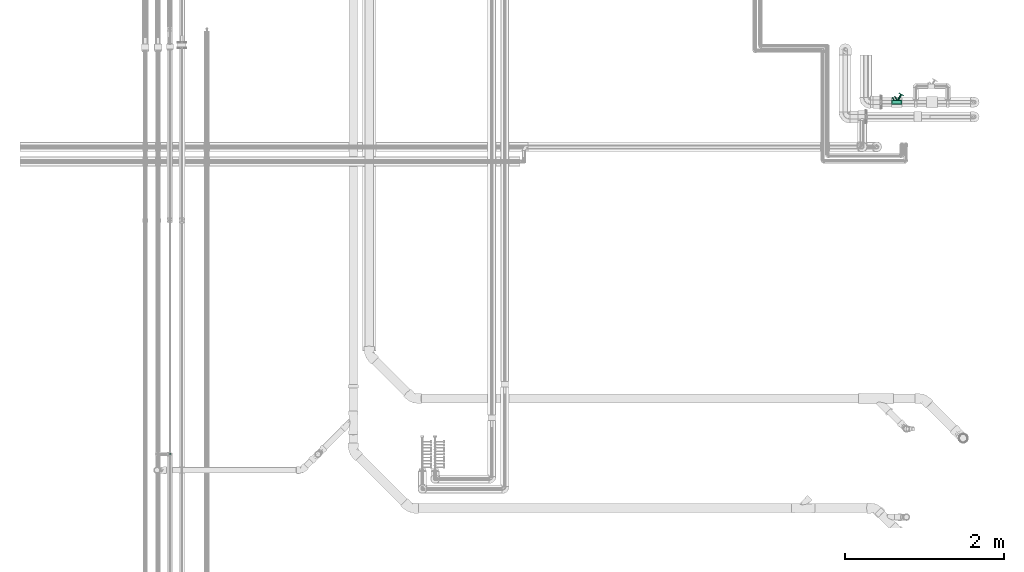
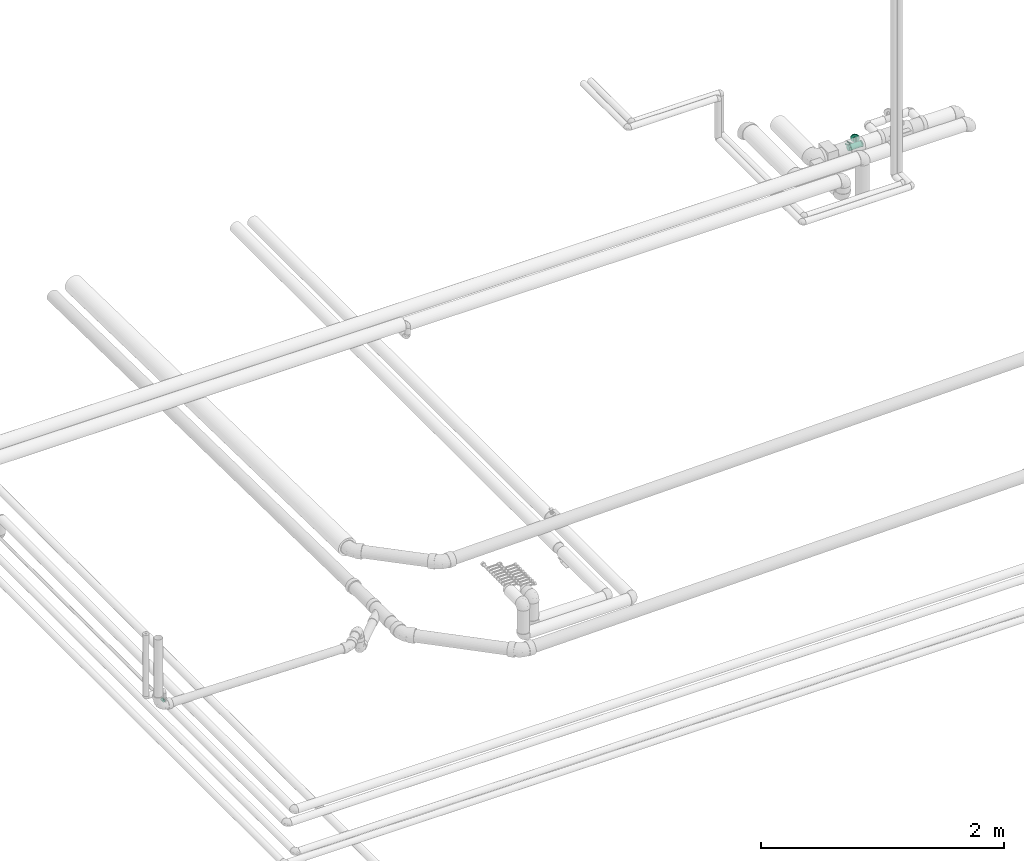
# One storey, part 77 of 83: 1 flow controller, 1 flow fitting.
"""IFC2X3 building model written with IfcOpenShell, lengths in millimetres."""

from ifc_helpers import new_model, entity, si_unit, converted_unit, derived_unit, direction, frame, origin_with_axes, place, context, subcontext, project, spatial, open_shell, surface_model, source, transform, mapped, type_object, element, save


model = new_model("IFC2X3")

# Units and contexts
model_context = context("Model", 3, precision=0.01, world=frame((0.0, 4.29681676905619e-09, 0.0)), true_north=direction((4.01073788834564e-13, 1.0)))
plan_context = context("Plan", 3, precision=0.01, world=frame((0.0, 4.29681676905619e-09, 0.0)), true_north=direction((4.01073788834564e-13, 1.0)))
body_context = subcontext(model_context, "Body", "Model", "MODEL_VIEW")
ifc_project = project(units=[converted_unit("PLANEANGLEUNIT", "DEGREE", entity("IfcPositiveLengthMeasure", 0.0174532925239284), si_unit("PLANEANGLEUNIT", "RADIAN"), dimensions=[0, 0, 0, 0, 0, 0, 0]), si_unit("AREAUNIT", "SQUARE_METRE"), si_unit("LENGTHUNIT", "METRE", prefix="MILLI"), si_unit("MASSUNIT", "GRAM", prefix="KILO"), si_unit("POWERUNIT", "WATT"), si_unit("PRESSUREUNIT", "PASCAL"), si_unit("FORCEUNIT", "NEWTON", prefix="KILO"), si_unit("ELECTRICVOLTAGEUNIT", "VOLT"), si_unit("ELECTRICCURRENTUNIT", "AMPERE"), si_unit("THERMODYNAMICTEMPERATUREUNIT", "DEGREE_CELSIUS"), si_unit("TIMEUNIT", "SECOND"), si_unit("VOLUMEUNIT", "CUBIC_METRE"), derived_unit("LINEARVELOCITYUNIT", [(si_unit("LENGTHUNIT", "METRE"), 1), (si_unit("TIMEUNIT", "SECOND"), -1)]), derived_unit("VOLUMETRICFLOWRATEUNIT", [(si_unit("VOLUMEUNIT", "CUBIC_METRE"), 1), (si_unit("TIMEUNIT", "SECOND"), -1)]), derived_unit("THERMALTRANSMITTANCEUNIT", [(si_unit("POWERUNIT", "WATT"), 1), (si_unit("THERMODYNAMICTEMPERATUREUNIT", "KELVIN"), -1), (si_unit("AREAUNIT", "SQUARE_METRE"), -1)]), derived_unit("SOUNDPRESSUREUNIT", [(si_unit("PRESSUREUNIT", "PASCAL"), 1)])], contexts=[model_context, plan_context])

# Site, building, storey
site_placement = place(None, frame((0.0, -4.29681676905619e-09, 0.0), z_axis=(0.0, 0.0, 1.0), x_axis=(1.0, 0.0, 0.0)))
site = spatial("IfcSite", under=ifc_project, at=site_placement, Name="ENGM", CompositionType="ELEMENT")
building_placement = place(site_placement, frame((0.0, 4.29681676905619e-09, 0.0), z_axis=(0.0, 0.0, 1.0), x_axis=(1.0, 0.0, 0.0)))
building = spatial("IfcBuilding", under=site, at=building_placement, Name="TI", CompositionType="ELEMENT")
storey_placement = place(building_placement, frame((0.0, 0.0, 204000.0), z_axis=(0.0, 0.0, 1.0), x_axis=(1.0, 0.0, 0.0)))
storey = spatial("IfcBuildingStorey", under=building, at=storey_placement, Name="Nivå D", CompositionType="ELEMENT", Elevation=204000.0)

# Flow controller
valve_type = type_object("IfcValveType", Name="STAD/F-40", PredefinedType="NOTDEFINED")
shared_shape_1 = source(origin_with_axes(), body_context, "Body", "SurfaceModel", [
    surface_model("IfcShellBasedSurfaceModel", [(5.41266, -10.82532, 3.125), (7.65466, -8.83883, 4.41942), (5.32606, -10.65211, 3.075), (2.75697, -11.88089, 1.59174), (0.0, -12.3, 0.0), (2.8018, -12.07407, 1.61762), (0.0, -12.5, 0.0), (7.53218, -8.69741, 4.34871), (10.45645, -3.23524, 6.03704), (10.65211, 0.0, 6.15), (10.28915, -3.18347, 5.94044), (10.82532, 0.0, 6.25), (9.375, -6.25, 5.41266), (9.225, -6.15, 5.32606), (-2.75697, -11.88089, -1.59174), (-2.8018, -12.07407, -1.61762), (-5.32606, -10.65211, -3.075), (-7.65466, -8.83883, -4.41942), (-5.41266, -10.82532, -3.125), (-7.53218, -8.69741, -4.34871), (-9.225, -6.15, -5.32606), (-9.375, -6.25, -5.41266), (-10.28915, -3.18347, -5.94044), (-10.45645, -3.23524, -6.03704), (-10.65211, 0.0, -6.15), (-10.82532, 0.0, -6.25), (10.45645, 3.23524, 6.03704), (10.28915, 3.18347, 5.94044), (9.225, 6.15, 5.32606), (9.375, 6.25, 5.41266), (7.53218, 8.69741, 4.34871), (7.65466, 8.83883, 4.41942), (5.41266, 10.82532, 3.125), (5.32606, 10.65211, 3.075), (2.75697, 11.88089, 1.59174), (2.8018, 12.07407, 1.61762), (0.0, 12.3, 0.0), (0.0, 12.5, 0.0), (-9.375, 6.25, -5.41266), (-9.225, 6.15, -5.32606), (-7.65466, 8.83883, -4.41942), (-7.53218, 8.69741, -4.34871), (-10.45645, 3.23524, -6.03704), (-10.28915, 3.18347, -5.94044), (-2.75697, 11.88089, -1.59174), (-2.8018, 12.07407, -1.61762), (-5.32606, 10.65211, -3.075), (-5.41266, 10.82532, -3.125), (65.0, 15.84, -27.43569), (65.0, 31.68, 0.0), (65.0, -15.84, 27.43569), (65.0, 15.84, 27.43569), (65.0, -15.84, -27.43569), (65.0, -31.68, 0.0), (55.0, -31.68, 0.0), (55.0, -15.84, 27.43569), (55.0, -15.84, -27.43569), (55.0, 31.68, 0.0), (55.0, 15.84, -27.43569), (55.0, 15.84, 27.43569), (-65.0, -15.84, -27.43569), (-65.0, -31.68, 0.0), (-65.0, 15.84, 27.43569), (-65.0, -15.84, 27.43569), (-65.0, 15.84, -27.43569), (-65.0, 31.68, 0.0), (-55.0, 31.68, 0.0), (-55.0, 15.84, 27.43569), (-55.0, 15.84, -27.43569), (-55.0, -31.68, 0.0), (-55.0, -15.84, -27.43569), (-55.0, -15.84, 27.43569), (87.125, 18.75, -85.95303), (67.40539, 36.22222, -97.33814), (75.23797, 32.47595, -92.816), (81.96397, 26.5165, -88.93275), (42.76202, 32.47595, -111.566), (90.36936, 9.70571, -84.0799), (26.52404, 0.0, -120.941), (36.03603, 26.5165, -115.44925), (59.0, 37.5, -102.191), (50.5946, 36.22222, -107.04386), (30.87499, 18.75, -118.42897), (27.63063, 9.70571, -120.3021), (91.47595, 0.0, -83.441), (90.36936, -9.70571, -84.0799), (87.125, -18.75, -85.95303), (81.96397, -26.5165, -88.93275), (75.23797, -32.47595, -92.816), (67.40539, -36.22222, -97.33814), (59.0, -37.5, -102.191), (27.63063, -9.70571, -120.3021), (36.03603, -26.5165, -115.44925), (30.87499, -18.75, -118.42897), (50.5946, -36.22222, -107.04386), (42.76202, -32.47595, -111.566), (61.40539, -36.22222, -86.94584), (44.5946, -36.22222, -96.65155), (52.99999, -37.5, -91.79869), (69.23797, -32.47595, -82.42369), (75.96396, -26.5165, -78.54045), (81.125, -18.75, -75.56072), (84.36936, -9.70571, -73.68759), (21.63063, 9.70571, -109.90981), (30.03603, -26.5165, -105.05695), (36.76202, -32.47595, -101.17369), (21.63063, -9.70571, -109.90981), (24.87499, -18.75, -108.03667), (20.52404, 0.0, -110.54869), (85.47595, 0.0, -73.0487), (84.36936, 9.70571, -73.68759), (81.125, 18.75, -75.56072), (69.23797, 32.47595, -82.42369), (61.40539, 36.22222, -86.94584), (75.96396, 26.5165, -78.54045), (30.03603, 26.5165, -105.05695), (24.87499, 18.75, -108.03667), (36.76202, 32.47595, -101.17369), (44.5946, 36.22222, -96.65155), (52.99999, 37.5, -91.79869), (55.0, 13.2, -22.86307), (55.0, 0.0, -26.4), (55.0, 6.83282, -25.50044), (55.0, 25.50044, 6.83282), (55.0, -25.50044, -6.83282), (55.0, 25.50044, -6.83282), (55.0, 26.4, 0.0), (55.0, 18.66762, -18.66762), (55.0, 22.86307, -13.2), (55.0, -13.2, -22.86307), (55.0, -6.83282, -25.50044), (55.0, -18.66762, -18.66762), (55.0, -22.86307, -13.2), (55.0, 22.86307, 13.2), (55.0, 18.66762, 18.66762), (55.0, 0.0, 26.4), (55.0, 13.2, 22.86307), (55.0, 6.83282, 25.50044), (55.0, -18.66762, 18.66762), (55.0, -25.50044, 6.83282), (55.0, -22.86307, 13.2), (55.0, -26.4, 0.0), (55.0, -6.83282, 25.50044), (55.0, -13.2, 22.86307), (-55.0, 0.0, 26.4), (-55.0, 6.83282, 25.50044), (-55.0, 13.2, 22.86307), (-55.0, 18.66762, 18.66762), (-55.0, 22.86307, 13.2), (-55.0, 25.50044, 6.83282), (-55.0, -18.66762, 18.66762), (-55.0, -6.83282, 25.50044), (-55.0, -13.2, 22.86307), (-55.0, -25.50044, 6.83282), (-55.0, -22.86307, 13.2), (-55.0, -26.4, 0.0), (-55.0, 26.4, 0.0), (-55.0, 18.66762, -18.66762), (-55.0, 25.50044, -6.83282), (-55.0, 22.86307, -13.2), (-55.0, -13.2, -22.86307), (-55.0, 13.2, -22.86307), (-55.0, -25.50044, -6.83282), (-55.0, 0.0, -26.4), (-55.0, 6.83282, -25.50044), (-55.0, -18.66762, -18.66762), (-55.0, -22.86307, -13.2), (-55.0, -6.83282, -25.50044), (-26.86828, 7.24444, -78.90582), (-25.30177, 6.49519, -79.81024), (-23.95657, 5.3033, -80.5869), (-33.14216, 5.3033, -75.2836), (-22.27549, 1.94114, -81.55747), (-22.92436, 3.75, -81.18284), (-35.04455, 0.0, -74.18525), (-28.54936, 7.5, -77.93525), (-31.79696, 6.49519, -76.06025), (-30.23044, 7.24444, -76.96468), (-34.17436, 3.75, -74.68765), (-34.82324, 1.94114, -74.31302), (-22.05417, 0.0, -81.68525), (-22.92436, -3.75, -81.18284), (-23.95657, -5.3033, -80.5869), (-26.86828, -7.24444, -78.90582), (-28.54936, -7.5, -77.93525), (-25.30177, -6.49519, -79.81024), (-33.14216, -5.3033, -75.2836), (-34.17436, -3.75, -74.68765), (-34.82324, -1.94114, -74.31302), (-30.23044, -7.24444, -76.96468), (-31.79696, -6.49519, -76.06025), (-22.27549, -1.94114, -81.55747), (21.04343, -5.3033, -2.64461), (16.45063, -7.5, 0.00704), (18.13171, -7.24444, -0.96353), (19.69823, -6.49519, -1.86796), (10.82563, -3.75, 3.25464), (22.07564, -3.75, -3.24055), (11.85784, -5.3033, 2.65869), (22.72451, -1.94114, -3.61518), (14.76956, -7.24444, 0.97761), (13.20304, -6.49519, 1.88204), (10.17676, -1.94114, 3.62926), (10.17676, 1.94114, 3.62926), (9.95544, 0.0, 3.75704), (22.94582, 0.0, -3.74296), (22.72451, 1.94114, -3.61518), (22.07564, 3.75, -3.24055), (19.69823, 6.49519, -1.86796), (18.13171, 7.24444, -0.96353), (21.04343, 5.3033, -2.64461), (13.20304, 6.49519, 1.88204), (11.85784, 5.3033, 2.65869), (10.82563, 3.75, 3.25464), (16.45063, 7.5, 0.00704), (14.76956, 7.24444, 0.97761), (-55.01411, 7.24444, -62.65582), (-53.44759, 6.49519, -63.56025), (-52.10239, 5.3033, -64.3369), (-51.07019, 3.75, -64.93284), (-50.42131, 1.94114, -65.30747), (-50.2, 0.0, -65.43525), (-51.07019, -3.75, -64.93284), (-59.94278, 6.49519, -59.81025), (-58.37627, 7.24444, -60.71468), (-56.69519, 7.5, -61.68525), (-61.28798, 5.3033, -59.0336), (-62.96906, 1.94114, -58.06303), (-62.32019, 3.75, -58.43765), (-52.10239, -5.3033, -64.3369), (-61.28798, -5.3033, -59.0336), (-55.01411, -7.24444, -62.65582), (-53.44759, -6.49519, -63.56025), (-56.69519, -7.5, -61.68525), (-59.94278, -6.49519, -59.81025), (-62.32019, -3.75, -58.43765), (-62.96906, -1.94114, -58.06303), (-63.19038, 0.0, -57.93524), (-58.37627, -7.24444, -60.71468), (-50.42131, -1.94114, -65.30747), (-30.51411, -7.24444, -20.22057), (-36.78798, -5.3033, -16.59835), (-32.19519, -7.5, -19.25), (-27.6024, -5.3033, -21.90165), (-28.94759, -6.49519, -21.125), (-26.57019, -3.75, -22.4976), (-35.44279, 6.49519, -17.375), (-35.44279, -6.49519, -17.375), (-33.87627, -7.24444, -18.27943), (-37.82019, -3.75, -16.0024), (-38.69038, 0.0, -15.5), (-38.46906, -1.94114, -15.62778), (-37.82019, 3.75, -16.0024), (-25.92132, -1.94114, -22.87222), (-25.7, 0.0, -23.0), (-25.92132, 1.94114, -22.87222), (-26.57019, 3.75, -22.4976), (-27.6024, 5.3033, -21.90165), (-30.51411, 7.24444, -20.22057), (-28.94759, 6.49519, -21.125), (-36.78798, 5.3033, -16.59835), (-38.46906, 1.94114, -15.62778), (-32.19519, 7.5, -19.25), (-33.87627, 7.24444, -18.27943), (58.41265, 10.82532, -88.67369), (60.65465, 8.83883, -87.37928), (58.32605, 10.65211, -88.7237), (55.75697, 11.88089, -90.20696), (52.99999, 12.3, -91.79869), (55.80179, 12.07407, -90.18108), (52.99999, 12.5, -91.79869), (60.53217, 8.69741, -87.44999), (63.45645, 3.23524, -85.76166), (63.65211, 0.0, -85.6487), (63.28915, 3.18347, -85.85825), (63.82531, 0.0, -85.54869), (62.37499, 6.25, -86.38603), (62.22499, 6.15, -86.47264), (50.24303, 11.88089, -93.39043), (50.1982, 12.07407, -93.41632), (47.67394, 10.65211, -94.8737), (45.34534, 8.83883, -96.21811), (47.58733, 10.82532, -94.92369), (45.46781, 8.69741, -96.1474), (43.77499, 6.15, -97.12475), (43.62499, 6.25, -97.21135), (42.71084, 3.18347, -97.73914), (42.54354, 3.23524, -97.83573), (42.34788, 0.0, -97.94869), (42.17468, 0.0, -98.04869), (63.45645, -3.23524, -85.76166), (63.28915, -3.18347, -85.85825), (62.22499, -6.15, -86.47264), (62.37499, -6.25, -86.38603), (60.53217, -8.69741, -87.44999), (60.65465, -8.83883, -87.37928), (58.41265, -10.82532, -88.67369), (58.32605, -10.65211, -88.7237), (55.75697, -11.88089, -90.20696), (55.80179, -12.07407, -90.18108), (52.99999, -12.3, -91.79869), (52.99999, -12.5, -91.79869), (43.62499, -6.25, -97.21135), (43.77499, -6.15, -97.12475), (45.34534, -8.83883, -96.21811), (45.46781, -8.69741, -96.1474), (42.54354, -3.23524, -97.83573), (42.71084, -3.18347, -97.73914), (50.24303, -11.88089, -93.39043), (50.1982, -12.07407, -93.41632), (47.67394, -10.65211, -94.8737), (47.58733, -10.82532, -94.92369)], [open_shell([[[0, 1, 2]], [[0, 2, 3]], [[4, 5, 3]], [[5, 4, 6]], [[3, 5, 0]], [[2, 1, 7]], [[8, 9, 10]], [[9, 8, 11]], [[8, 10, 12]], [[7, 12, 13]], [[12, 7, 1]], [[13, 12, 10]], [[6, 14, 15]], [[15, 14, 16]], [[17, 18, 19]], [[16, 18, 15]], [[16, 19, 18]], [[6, 4, 14]], [[20, 21, 17]], [[21, 20, 22]], [[20, 17, 19]], [[23, 22, 24]], [[22, 23, 21]], [[23, 24, 25]], [[11, 26, 27]], [[27, 26, 28]], [[28, 29, 30]], [[29, 28, 26]], [[30, 29, 31]], [[31, 32, 33]], [[33, 32, 34]], [[34, 35, 36]], [[35, 34, 32]], [[36, 35, 37]], [[33, 30, 31]], [[38, 39, 40]], [[40, 39, 41]], [[39, 38, 42]], [[25, 43, 42]], [[42, 43, 39]], [[25, 24, 43]], [[44, 37, 45]], [[44, 45, 46]], [[41, 47, 40]], [[41, 46, 47]], [[47, 46, 45]], [[36, 37, 44]], [[27, 9, 11]], [[48, 49, 50]], [[50, 49, 51]], [[52, 50, 53]], [[50, 52, 48]], [[54, 55, 56]], [[56, 55, 57]], [[57, 58, 56]], [[57, 55, 59]], [[50, 51, 59]], [[59, 55, 50]], [[53, 50, 55]], [[55, 54, 53]], [[52, 53, 54]], [[54, 56, 52]], [[48, 52, 56]], [[56, 58, 48]], [[49, 48, 58]], [[58, 57, 49]], [[51, 49, 59]], [[57, 59, 49]], [[60, 61, 62]], [[62, 61, 63]], [[64, 62, 65]], [[62, 64, 60]], [[66, 67, 68]], [[68, 67, 69]], [[69, 70, 68]], [[69, 67, 71]], [[62, 63, 71]], [[71, 67, 62]], [[65, 62, 67]], [[67, 66, 65]], [[64, 65, 66]], [[66, 68, 64]], [[60, 64, 68]], [[68, 70, 60]], [[61, 60, 70]], [[70, 69, 61]], [[63, 61, 71]], [[69, 71, 61]], [[72, 73, 74]], [[72, 74, 75]], [[76, 72, 77]], [[72, 76, 73]], [[78, 79, 77]], [[80, 76, 81]], [[80, 73, 76]], [[77, 79, 76]], [[79, 78, 82]], [[78, 83, 82]], [[84, 78, 77]], [[85, 86, 87]], [[87, 88, 84]], [[78, 88, 89]], [[88, 78, 84]], [[89, 90, 78]], [[91, 92, 93]], [[92, 91, 78]], [[92, 94, 95]], [[92, 78, 90]], [[90, 94, 92]], [[87, 84, 85]], [[96, 97, 98]], [[99, 97, 96]], [[100, 101, 102]], [[99, 100, 97]], [[103, 104, 100]], [[97, 104, 105]], [[97, 100, 104]], [[104, 106, 107]], [[108, 106, 103]], [[106, 104, 103]], [[100, 102, 109]], [[103, 100, 110]], [[111, 103, 110]], [[112, 113, 111]], [[112, 111, 114]], [[113, 103, 111]], [[103, 115, 116]], [[115, 103, 117]], [[113, 118, 117]], [[117, 103, 113]], [[119, 118, 113]], [[110, 100, 109]], [[103, 83, 108]], [[116, 82, 103]], [[76, 115, 117]], [[116, 115, 79]], [[81, 117, 118]], [[103, 82, 83]], [[83, 78, 108]], [[81, 76, 117]], [[79, 115, 76]], [[79, 82, 116]], [[80, 81, 118]], [[118, 119, 80]], [[113, 73, 119]], [[112, 74, 113]], [[72, 114, 111]], [[112, 114, 75]], [[77, 111, 110]], [[112, 75, 74]], [[74, 73, 113]], [[84, 77, 110]], [[72, 111, 77]], [[72, 75, 114]], [[109, 84, 110]], [[119, 73, 80]], [[102, 85, 109]], [[101, 86, 102]], [[88, 100, 99]], [[101, 100, 87]], [[89, 99, 96]], [[102, 86, 85]], [[85, 84, 109]], [[89, 88, 99]], [[87, 100, 88]], [[87, 86, 101]], [[90, 89, 96]], [[96, 98, 90]], [[97, 94, 98]], [[105, 95, 97]], [[93, 104, 107]], [[105, 104, 92]], [[91, 107, 106]], [[105, 92, 95]], [[95, 94, 97]], [[78, 91, 106]], [[93, 107, 91]], [[93, 92, 104]], [[108, 78, 106]], [[98, 94, 90]], [[120, 121, 122]], [[120, 123, 124]], [[125, 126, 127]], [[125, 127, 128]], [[120, 127, 123]], [[121, 129, 130]], [[121, 120, 129]], [[131, 124, 132]], [[124, 131, 129]], [[120, 124, 129]], [[127, 126, 123]], [[123, 133, 134]], [[123, 134, 135]], [[136, 137, 135]], [[136, 135, 134]], [[123, 135, 138]], [[139, 138, 140]], [[138, 139, 141]], [[138, 142, 143]], [[141, 124, 138]], [[135, 142, 138]], [[138, 124, 123]], [[144, 145, 146]], [[144, 146, 147]], [[147, 148, 149]], [[147, 149, 144]], [[144, 149, 150]], [[151, 150, 152]], [[151, 144, 150]], [[150, 153, 154]], [[153, 150, 155]], [[149, 155, 150]], [[149, 156, 155]], [[157, 156, 158]], [[157, 158, 159]], [[160, 157, 161]], [[162, 155, 157]], [[163, 161, 164]], [[162, 165, 166]], [[165, 162, 160]], [[160, 163, 167]], [[160, 162, 157]], [[161, 163, 160]], [[157, 155, 156]], [[124, 162, 166]], [[165, 132, 166]], [[129, 160, 167]], [[165, 160, 131]], [[130, 167, 163]], [[162, 141, 155]], [[162, 124, 141]], [[166, 132, 124]], [[165, 131, 132]], [[129, 131, 160]], [[167, 130, 129]], [[163, 121, 130]], [[122, 164, 161]], [[157, 120, 161]], [[128, 159, 158]], [[157, 159, 127]], [[125, 158, 156]], [[164, 122, 121]], [[161, 120, 122]], [[157, 127, 120]], [[159, 128, 127]], [[125, 128, 158]], [[156, 126, 125]], [[164, 121, 163]], [[156, 149, 123]], [[136, 146, 145]], [[146, 134, 147]], [[144, 137, 145]], [[156, 123, 126]], [[123, 149, 148]], [[123, 148, 133]], [[148, 147, 133]], [[133, 147, 134]], [[134, 146, 136]], [[145, 137, 136]], [[144, 135, 137]], [[142, 151, 152]], [[150, 143, 152]], [[140, 154, 153]], [[150, 154, 138]], [[139, 153, 155]], [[151, 142, 135]], [[152, 143, 142]], [[150, 138, 143]], [[154, 140, 138]], [[139, 140, 153]], [[155, 141, 139]], [[151, 135, 144]], [[168, 169, 170]], [[171, 168, 170]], [[171, 170, 172]], [[172, 170, 173]], [[174, 171, 172]], [[175, 176, 177]], [[176, 175, 171]], [[171, 174, 178]], [[171, 175, 168]], [[174, 179, 178]], [[180, 174, 172]], [[174, 180, 181]], [[182, 174, 181]], [[183, 184, 182]], [[183, 182, 185]], [[184, 186, 182]], [[174, 187, 188]], [[187, 174, 186]], [[186, 189, 190]], [[186, 174, 182]], [[184, 189, 186]], [[181, 180, 191]], [[192, 193, 194]], [[192, 194, 195]], [[196, 192, 197]], [[192, 198, 193]], [[196, 197, 199]], [[200, 198, 201]], [[200, 193, 198]], [[192, 196, 198]], [[202, 196, 199]], [[202, 203, 204]], [[202, 199, 205]], [[205, 206, 207]], [[205, 207, 208]], [[209, 202, 208]], [[208, 207, 210]], [[211, 202, 209]], [[203, 212, 213]], [[212, 203, 211]], [[211, 214, 215]], [[203, 202, 211]], [[209, 214, 211]], [[202, 205, 208]], [[203, 179, 204]], [[213, 178, 203]], [[176, 212, 211]], [[213, 212, 171]], [[177, 211, 215]], [[203, 178, 179]], [[179, 174, 204]], [[176, 211, 177]], [[171, 212, 176]], [[171, 178, 213]], [[215, 175, 177]], [[215, 214, 175]], [[209, 168, 214]], [[208, 169, 209]], [[173, 210, 207]], [[208, 210, 170]], [[172, 207, 206]], [[208, 170, 169]], [[169, 168, 209]], [[180, 172, 206]], [[173, 207, 172]], [[173, 170, 210]], [[205, 180, 206]], [[214, 168, 175]], [[199, 191, 205]], [[197, 181, 199]], [[185, 192, 195]], [[197, 192, 182]], [[183, 195, 194]], [[205, 191, 180]], [[199, 181, 191]], [[184, 183, 194]], [[185, 182, 192]], [[183, 185, 195]], [[197, 182, 181]], [[194, 193, 184]], [[200, 189, 193]], [[201, 190, 200]], [[202, 204, 174]], [[198, 190, 201]], [[189, 200, 190]], [[190, 198, 186]], [[187, 196, 188]], [[196, 187, 186]], [[188, 196, 202]], [[202, 174, 188]], [[196, 186, 198]], [[193, 189, 184]], [[216, 217, 218]], [[216, 218, 219]], [[219, 220, 221]], [[222, 223, 216]], [[219, 222, 216]], [[216, 224, 225]], [[216, 223, 224]], [[226, 227, 228]], [[227, 226, 223]], [[223, 229, 227]], [[219, 221, 222]], [[223, 222, 229]], [[230, 227, 229]], [[229, 231, 230]], [[231, 229, 232]], [[231, 233, 234]], [[227, 235, 236]], [[236, 237, 227]], [[231, 234, 230]], [[230, 235, 227]], [[238, 234, 233]], [[221, 239, 222]], [[240, 241, 242]], [[243, 240, 244]], [[241, 240, 245]], [[245, 240, 243]], [[241, 245, 246]], [[242, 247, 248]], [[242, 241, 247]], [[249, 250, 251]], [[246, 249, 241]], [[252, 250, 249]], [[245, 253, 254]], [[254, 255, 256]], [[254, 256, 257]], [[258, 245, 259]], [[259, 254, 257]], [[258, 246, 245]], [[252, 246, 260]], [[261, 250, 252]], [[246, 262, 263]], [[249, 246, 252]], [[258, 262, 246]], [[259, 245, 254]], [[261, 227, 250]], [[252, 228, 261]], [[223, 260, 246]], [[252, 260, 226]], [[224, 246, 263]], [[261, 228, 227]], [[227, 237, 250]], [[224, 223, 246]], [[226, 260, 223]], [[226, 228, 252]], [[225, 224, 263]], [[263, 262, 225]], [[258, 216, 262]], [[259, 217, 258]], [[219, 257, 256]], [[259, 257, 218]], [[220, 256, 255]], [[259, 218, 217]], [[217, 216, 258]], [[221, 220, 255]], [[219, 256, 220]], [[219, 218, 257]], [[254, 221, 255]], [[262, 216, 225]], [[253, 239, 254]], [[245, 222, 253]], [[232, 243, 244]], [[245, 243, 229]], [[231, 244, 240]], [[253, 222, 239]], [[239, 221, 254]], [[231, 232, 244]], [[229, 243, 232]], [[229, 222, 245]], [[233, 231, 240]], [[240, 242, 233]], [[248, 238, 242]], [[247, 234, 248]], [[235, 241, 249]], [[247, 241, 230]], [[236, 249, 251]], [[247, 230, 234]], [[234, 238, 248]], [[237, 236, 251]], [[235, 249, 236]], [[235, 230, 241]], [[250, 237, 251]], [[242, 238, 233]], [[264, 265, 266]], [[264, 266, 267]], [[268, 269, 267]], [[269, 268, 270]], [[267, 269, 264]], [[266, 265, 271]], [[272, 273, 274]], [[273, 272, 275]], [[272, 274, 276]], [[271, 276, 277]], [[276, 271, 265]], [[277, 276, 274]], [[270, 278, 279]], [[279, 278, 280]], [[281, 282, 283]], [[280, 282, 279]], [[280, 283, 282]], [[270, 268, 278]], [[284, 285, 281]], [[285, 284, 286]], [[284, 281, 283]], [[287, 286, 288]], [[286, 287, 285]], [[287, 288, 289]], [[275, 290, 291]], [[291, 290, 292]], [[292, 293, 294]], [[293, 292, 290]], [[294, 293, 295]], [[295, 296, 297]], [[297, 296, 298]], [[298, 299, 300]], [[299, 298, 296]], [[300, 299, 301]], [[297, 294, 295]], [[302, 303, 304]], [[304, 303, 305]], [[303, 302, 306]], [[289, 307, 306]], [[306, 307, 303]], [[289, 288, 307]], [[308, 301, 309]], [[308, 309, 310]], [[305, 311, 304]], [[305, 310, 311]], [[311, 310, 309]], [[300, 301, 308]], [[291, 273, 275]], [[42, 287, 25]], [[38, 285, 42]], [[282, 40, 47]], [[38, 40, 281]], [[279, 47, 45]], [[42, 285, 287]], [[287, 289, 25]], [[279, 282, 47]], [[281, 40, 282]], [[281, 285, 38]], [[270, 279, 45]], [[45, 37, 270]], [[35, 269, 37]], [[32, 264, 35]], [[276, 31, 29]], [[32, 31, 265]], [[272, 29, 26]], [[32, 265, 264]], [[264, 269, 35]], [[275, 272, 26]], [[276, 29, 272]], [[276, 265, 31]], [[11, 275, 26]], [[37, 269, 270]], [[8, 290, 11]], [[12, 293, 8]], [[296, 1, 0]], [[12, 1, 295]], [[299, 0, 5]], [[11, 290, 275]], [[8, 293, 290]], [[301, 299, 5]], [[293, 12, 295]], [[299, 296, 0]], [[1, 296, 295]], [[5, 6, 301]], [[15, 309, 6]], [[18, 311, 15]], [[23, 25, 289]], [[17, 311, 18]], [[309, 15, 311]], [[311, 17, 304]], [[21, 302, 304]], [[302, 21, 306]], [[306, 21, 23]], [[23, 289, 306]], [[21, 304, 17]], [[6, 309, 301]], [[43, 24, 286]], [[39, 43, 284]], [[44, 46, 280]], [[36, 44, 278]], [[286, 24, 288]], [[284, 43, 286]], [[284, 283, 41]], [[280, 41, 283]], [[46, 41, 280]], [[280, 278, 44]], [[39, 284, 41]], [[278, 268, 36]], [[33, 34, 267]], [[33, 266, 30]], [[27, 28, 277]], [[271, 28, 30]], [[9, 27, 274]], [[267, 266, 33]], [[34, 268, 267]], [[271, 30, 266]], [[271, 277, 28]], [[274, 27, 277]], [[9, 274, 273]], [[36, 268, 34]], [[9, 291, 10]], [[10, 292, 13]], [[294, 7, 13]], [[297, 2, 7]], [[291, 292, 10]], [[9, 273, 291]], [[297, 298, 3]], [[3, 298, 300]], [[297, 7, 294]], [[13, 292, 294]], [[297, 3, 2]], [[300, 4, 3]], [[16, 14, 308]], [[16, 310, 19]], [[22, 20, 303]], [[305, 20, 19]], [[24, 22, 307]], [[14, 300, 308]], [[310, 16, 308]], [[303, 20, 305]], [[22, 303, 307]], [[305, 19, 310]], [[307, 288, 24]], [[4, 300, 14]]])]),
])
flow_controller_placement = place(storey_placement, frame((609005.27966, 698092.0, 5915.24411), z_axis=(0.0, -1.0, 0.0), x_axis=(1.0, 0.0, 0.0)))
element("IfcFlowController", 1, at=flow_controller_placement, inside=storey, type_object=valve_type, Name="STAD/F-40", context=body_context, shape_type="MappedRepresentation", body=[
    mapped(shared_shape_1, transform((0.0, 0.0, 0.0), scale=1.0)),
])

# Flow fitting
pipe_fitting_type = type_object("IfcPipeFittingType", Name="magi_pipe_cu_tee_centric_90_001", PredefinedType="JUNCTION")
shared_shape_2 = source(origin_with_axes(), body_context, "Body", "SurfaceModel", [
    surface_model("IfcShellBasedSurfaceModel", [(-15.0, 3.62347, -13.52296), (-15.0, 0.0, -14.0), (-15.0, 9.89949, -9.89949), (-15.0, 7.0, -12.12436), (-15.0, 13.52296, -3.62347), (-15.0, 12.12436, -7.0), (-15.0, -12.12436, -7.0), (-15.0, -9.89949, -9.89949), (-15.0, -7.0, -12.12436), (-15.0, -3.62347, -13.52296), (-15.0, -13.52296, -3.62347), (-15.0, -14.0, 0.0), (-15.0, 14.0, 0.0), (-15.0, 12.12436, 7.0), (-15.0, 13.52296, 3.62347), (-15.0, 3.62347, 13.52296), (-15.0, 7.0, 12.12436), (-15.0, 9.89949, 9.89949), (-15.0, 0.0, 14.0), (-15.0, -13.52296, 3.62347), (-15.0, -12.12436, 7.0), (-15.0, -9.89949, 9.89949), (-15.0, -7.0, 12.12436), (-15.0, -3.62347, 13.52296), (15.0, 9.89949, -9.89949), (15.0, 0.0, -14.0), (15.0, 3.62347, -13.52296), (15.0, 7.0, -12.12436), (15.0, 12.12436, -7.0), (15.0, 13.52296, -3.62347), (15.0, -12.12436, -7.0), (15.0, -7.0, -12.12436), (15.0, -9.89949, -9.89949), (15.0, -3.62347, -13.52296), (15.0, -14.0, 0.0), (15.0, -13.52296, -3.62347), (15.0, -7.0, 12.12436), (15.0, 14.0, 0.0), (15.0, 13.52296, 3.62347), (15.0, 12.12436, 7.0), (15.0, 3.62347, 13.52296), (15.0, 7.0, 12.12436), (15.0, 9.89949, 9.89949), (15.0, 0.0, 14.0), (15.0, -12.12436, 7.0), (15.0, -13.52296, 3.62347), (15.0, -9.89949, 9.89949), (15.0, -3.62347, 13.52296), (15.0, -13.76148, 1.81173), (7.03381, -13.75589, 2.60297), (7.5, -14.0, 0.0), (5.73139, -13.13769, 4.83748), (1.3253, -11.89565, 7.38198), (15.0, -12.82366, 5.31173), (3.77416, -12.40944, 6.48118), (-3.77483, -12.40965, 6.48079), (-15.0, -12.82366, 5.31173), (-5.73324, -13.1385, 4.83528), (-7.03405, -13.75601, 2.60233), (-15.0, -13.76148, 1.81173), (-7.5, -14.0, 0.0), (-1.32746, -11.89589, 7.38159), (-5.73324, -13.1385, -4.83528), (-15.0, -12.82366, -5.31173), (-15.0, -13.76148, -1.81173), (-7.03405, -13.75601, -2.60233), (3.77416, -12.40944, -6.48118), (15.0, -12.82366, -5.31173), (5.73139, -13.13769, -4.83748), (1.3253, -11.89565, -7.38198), (7.03381, -13.75589, -2.60297), (15.0, -13.76148, -1.81173), (-1.32746, -11.89589, -7.38159), (-3.77483, -12.40965, -6.48079), (5.3033, -21.0, -5.3033), (0.0, -21.0, -7.5), (1.94114, -21.0, -7.24444), (3.75, -21.0, -6.49519), (6.49519, -21.0, -3.75), (7.24444, -21.0, -1.94114), (-5.3033, -21.0, -5.3033), (-7.5, -21.0, 0.0), (-1.94114, -21.0, -7.24444), (-3.75, -21.0, -6.49519), (-6.49519, -21.0, -3.75), (-7.24444, -21.0, -1.94114), (3.75, -21.0, 6.49519), (7.5, -21.0, 0.0), (7.24444, -21.0, 1.94114), (6.49519, -21.0, 3.75), (0.0, -21.0, 7.5), (5.3033, -21.0, 5.3033), (1.94114, -21.0, 7.24444), (-7.24444, -21.0, 1.94114), (-5.3033, -21.0, 5.3033), (-6.49519, -21.0, 3.75), (-3.75, -21.0, 6.49519), (-1.94114, -21.0, 7.24444)], [open_shell([[[0, 1, 2]], [[3, 0, 2]], [[1, 4, 5]], [[2, 1, 5]], [[6, 4, 1]], [[7, 6, 8]], [[9, 8, 6]], [[10, 11, 6]], [[1, 9, 6]], [[6, 11, 4]], [[11, 12, 4]], [[13, 14, 12]], [[15, 13, 12]], [[13, 15, 16]], [[17, 13, 16]], [[18, 15, 12]], [[19, 20, 11]], [[20, 21, 11]], [[22, 23, 12]], [[21, 22, 11]], [[12, 23, 18]], [[12, 11, 22]], [[24, 25, 26]], [[24, 26, 27]], [[28, 29, 25]], [[28, 25, 24]], [[25, 29, 30]], [[31, 30, 32]], [[30, 31, 33]], [[30, 34, 35]], [[30, 33, 25]], [[30, 36, 34]], [[30, 29, 37]], [[37, 38, 39]], [[37, 39, 40]], [[41, 40, 39]], [[41, 39, 42]], [[37, 40, 43]], [[34, 44, 45]], [[34, 46, 44]], [[47, 36, 30]], [[34, 36, 46]], [[43, 47, 37]], [[30, 37, 47]], [[48, 45, 49]], [[50, 34, 48]], [[45, 51, 49]], [[44, 46, 52]], [[50, 48, 49]], [[51, 53, 54]], [[52, 54, 44]], [[46, 21, 52]], [[54, 53, 44]], [[55, 56, 57]], [[58, 59, 60]], [[11, 60, 59]], [[58, 57, 19]], [[55, 61, 20]], [[51, 45, 53]], [[20, 56, 55]], [[20, 61, 21]], [[57, 56, 19]], [[61, 52, 21]], [[58, 19, 59]], [[46, 22, 21]], [[18, 47, 43]], [[23, 36, 47]], [[15, 43, 40]], [[39, 38, 14]], [[17, 41, 42]], [[13, 42, 39]], [[40, 41, 16]], [[12, 38, 37]], [[22, 36, 23]], [[23, 47, 18]], [[15, 18, 43]], [[40, 16, 15]], [[16, 41, 17]], [[13, 17, 42]], [[14, 13, 39]], [[38, 12, 14]], [[36, 22, 46]], [[29, 12, 37]], [[4, 29, 28]], [[28, 24, 5]], [[9, 25, 33]], [[62, 10, 63]], [[1, 26, 25]], [[27, 26, 0]], [[33, 31, 8]], [[24, 27, 2]], [[2, 5, 24]], [[5, 4, 28]], [[4, 12, 29]], [[60, 64, 65]], [[3, 2, 27]], [[26, 1, 0]], [[25, 9, 1]], [[33, 8, 9]], [[66, 67, 68]], [[27, 0, 3]], [[31, 7, 8]], [[32, 30, 69]], [[70, 35, 71]], [[66, 69, 30]], [[67, 66, 30]], [[32, 69, 7]], [[34, 50, 71]], [[70, 68, 35]], [[70, 71, 50]], [[35, 68, 67]], [[72, 73, 6]], [[6, 7, 72]], [[62, 63, 73]], [[72, 7, 69]], [[62, 65, 10]], [[65, 64, 10]], [[64, 60, 11]], [[63, 6, 73]], [[32, 7, 31]], [[74, 75, 76]], [[74, 76, 77]], [[74, 78, 79]], [[75, 74, 80]], [[81, 74, 79]], [[82, 80, 83]], [[82, 75, 80]], [[84, 81, 85]], [[81, 84, 80]], [[74, 81, 80]], [[79, 86, 81]], [[87, 88, 89]], [[89, 86, 79]], [[86, 90, 81]], [[86, 89, 91]], [[90, 86, 92]], [[93, 94, 95]], [[94, 93, 90]], [[96, 90, 97]], [[90, 96, 94]], [[81, 90, 93]], [[89, 79, 87]], [[60, 81, 93]], [[58, 95, 94]], [[93, 95, 60]], [[94, 96, 58]], [[60, 95, 58]], [[57, 58, 97]], [[61, 55, 54]], [[57, 51, 55]], [[97, 90, 57]], [[96, 97, 58]], [[92, 51, 90]], [[86, 49, 92]], [[49, 91, 89]], [[86, 91, 49]], [[50, 89, 88]], [[51, 54, 55]], [[52, 61, 54]], [[89, 50, 49]], [[49, 51, 92]], [[88, 87, 50]], [[57, 90, 51]], [[50, 87, 79]], [[70, 78, 74]], [[79, 78, 50]], [[74, 77, 70]], [[50, 78, 70]], [[68, 70, 76]], [[69, 66, 72]], [[68, 73, 66]], [[76, 75, 68]], [[77, 76, 70]], [[62, 75, 82]], [[83, 65, 82]], [[65, 80, 84]], [[83, 80, 65]], [[60, 84, 85]], [[62, 73, 68]], [[72, 66, 73]], [[84, 60, 65]], [[65, 62, 82]], [[85, 81, 60]], [[68, 75, 62]]])]),
])
flow_fitting_placement = place(storey_placement, frame((599881.50429, 693675.702, 6220.0), z_axis=(1.0, 0.0, 0.0), x_axis=(0.0, -1.0, 0.0)))
element("IfcFlowFitting", 2, at=flow_fitting_placement, inside=storey, type_object=pipe_fitting_type, Name="magi_pipe_cu_tee_centric_90_001", context=body_context, shape_type="MappedRepresentation", body=[
    mapped(shared_shape_2, transform((0.0, 0.0, 0.0), scale=1.0)),
])

save(model, "model.ifc")
